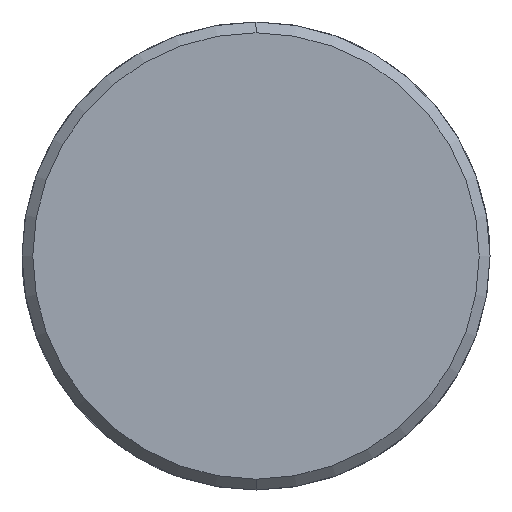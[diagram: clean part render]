
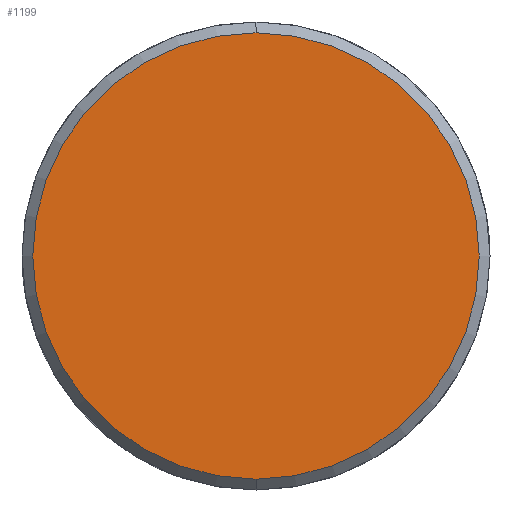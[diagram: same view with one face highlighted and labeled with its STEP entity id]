
A CAD part, left-side view. The second image highlights one B-rep face of the part: STEP entity #1199.
In plain terms, the highlighted planar face has unit normal (-1, 0, 0).
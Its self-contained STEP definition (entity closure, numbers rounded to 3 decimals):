
#1131=CARTESIAN_POINT('Vertex',(-10.,0.,-31.)) ;
#1134=CARTESIAN_POINT('Axis2P3D Location',(-10.,0.,0.)) ;
#1138=CARTESIAN_POINT('Vertex',(-10.,31.,0.)) ;
#1141=CARTESIAN_POINT('Axis2P3D Location',(-10.,0.,0.)) ;
#1145=CARTESIAN_POINT('Vertex',(-10.,0.,31.)) ;
#1167=CARTESIAN_POINT('Axis2P3D Location',(-10.,0.,0.)) ;
#1171=CARTESIAN_POINT('Vertex',(-10.,-31.,0.)) ;
#1174=CARTESIAN_POINT('Axis2P3D Location',(-10.,0.,0.)) ;
#1188=CARTESIAN_POINT('Axis2P3D Location',(-10.,0.,0.)) ;
#1135=DIRECTION('Axis2P3D Direction',(1.,0.,-0.)) ;
#1142=DIRECTION('Axis2P3D Direction',(1.,0.,-0.)) ;
#1168=DIRECTION('Axis2P3D Direction',(1.,0.,-0.)) ;
#1175=DIRECTION('Axis2P3D Direction',(1.,0.,-0.)) ;
#1189=DIRECTION('Axis2P3D Direction',(1.,0.,-0.)) ;
#1190=DIRECTION('Axis2P3D XDirection',(-0.,0.,-1.)) ;
#1136=AXIS2_PLACEMENT_3D('Circle Axis2P3D',#1134,#1135,$) ;
#1143=AXIS2_PLACEMENT_3D('Circle Axis2P3D',#1141,#1142,$) ;
#1169=AXIS2_PLACEMENT_3D('Circle Axis2P3D',#1167,#1168,$) ;
#1176=AXIS2_PLACEMENT_3D('Circle Axis2P3D',#1174,#1175,$) ;
#1191=AXIS2_PLACEMENT_3D('Plane Axis2P3D',#1188,#1189,#1190) ;
#1194=ORIENTED_EDGE('',*,*,#1140,.F.) ;
#1195=ORIENTED_EDGE('',*,*,#1178,.F.) ;
#1196=ORIENTED_EDGE('',*,*,#1173,.F.) ;
#1197=ORIENTED_EDGE('',*,*,#1147,.F.) ;
#1199=ADVANCED_FACE('351-50X96X180',(#1198),#1192,.F.) ;
#1137=CIRCLE('generated circle',#1136,31.) ;
#1144=CIRCLE('generated circle',#1143,31.) ;
#1170=CIRCLE('generated circle',#1169,31.) ;
#1177=CIRCLE('generated circle',#1176,31.) ;
#1140=EDGE_CURVE('',#1132,#1139,#1137,.T.) ;
#1147=EDGE_CURVE('',#1139,#1146,#1144,.T.) ;
#1173=EDGE_CURVE('',#1146,#1172,#1170,.T.) ;
#1178=EDGE_CURVE('',#1172,#1132,#1177,.T.) ;
#1193=EDGE_LOOP('',(#1194,#1195,#1196,#1197)) ;
#1198=FACE_OUTER_BOUND('',#1193,.T.) ;
#1192=PLANE('Plane',#1191) ;
#1132=VERTEX_POINT('',#1131) ;
#1139=VERTEX_POINT('',#1138) ;
#1146=VERTEX_POINT('',#1145) ;
#1172=VERTEX_POINT('',#1171) ;
